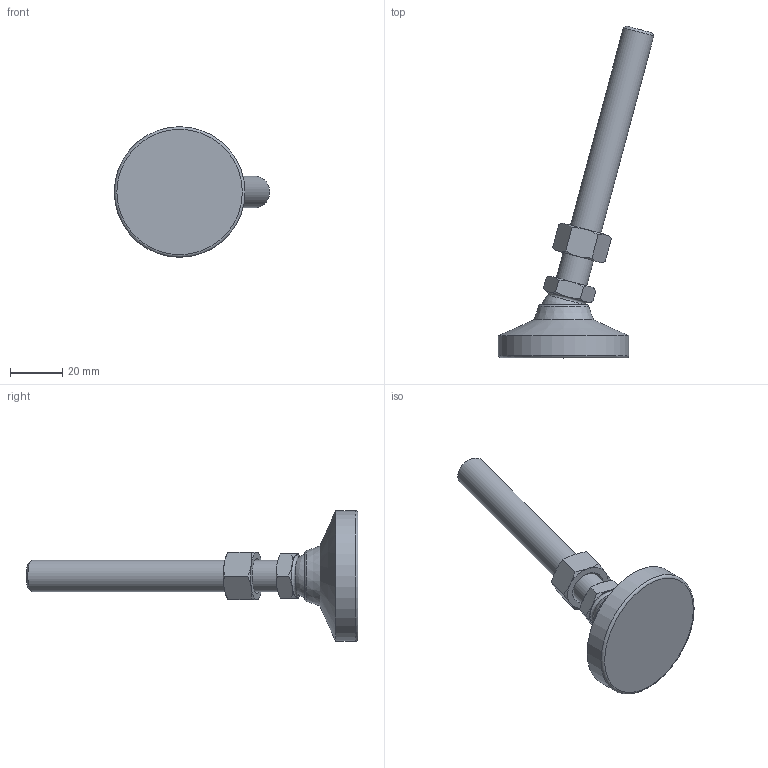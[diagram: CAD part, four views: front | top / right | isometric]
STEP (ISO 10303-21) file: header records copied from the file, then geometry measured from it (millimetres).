
FILE_DESCRIPTION( ( 'STEP AP214' ), ' ' );
FILE_NAME( 'O:/ganter_2015/teil_2/2_5/gn343_2/gn343_2_ks/Levelling foot with threaded stud GN 343.2-50-M12-100-KS-(-15).stp', '2015-10-26T09:11:01', ( '' ), ( '' ), ' ', 'PARTsolutions', ' ' );
FILE_SCHEMA( ( 'AUTOMOTIVE_DESIGN { 1 0 10303 214 1 1 1 1 }' ) );
Length unit declared in the file: millimetre
Products named in the file (4): Levelling foot with threaded stud GN 343.2-50-M12-100-KS-(-15); _Levelling foot with threaded stud GN 343.2-50-M12-100-KS-(-15)_foot; _Gelenkfuss mit Schraube GN 343.2-50-M12-100-KS-(-15)_screw; _GLevelling foot with threaded stud GN 343.2-50-M12-100-KS-(-15)_nut
Assembly tree (3 placements, depth 2):
  Levelling foot with threaded stud GN 343.2-50-M12-100-KS-(-15)
    _Levelling foot with threaded stud GN 343.2-50-M12-100-KS-(-15)_foot
    _Gelenkfuss mit Schraube GN 343.2-50-M12-100-KS-(-15)_screw
    _GLevelling foot with threaded stud GN 343.2-50-M12-100-KS-(-15)_nut
Bounding box: 59.47 x 126.99 x 50 mm (x, y, z)
Volume: 40707.7 mm3; surface area: 12534.9 mm2
Topology: 3 solids, 3 shells, 56 faces, 117 edges, 68 vertices
Faces by surface type: cone 29, plane 19, torus 3, cylinder 3, sphere 2
Full cylindrical faces by diameter (mm): 10.106 x1, 12 x1, 50 x1
Entity records: 2066 total; most frequent: CARTESIAN_POINT 498, DIRECTION 212, ORIENTED_EDGE 200, AXIS2_PLACEMENT_3D 100, EDGE_CURVE 100, EDGE_LOOP 72, VERTEX_POINT 66, FACE_OUTER_BOUND 62
